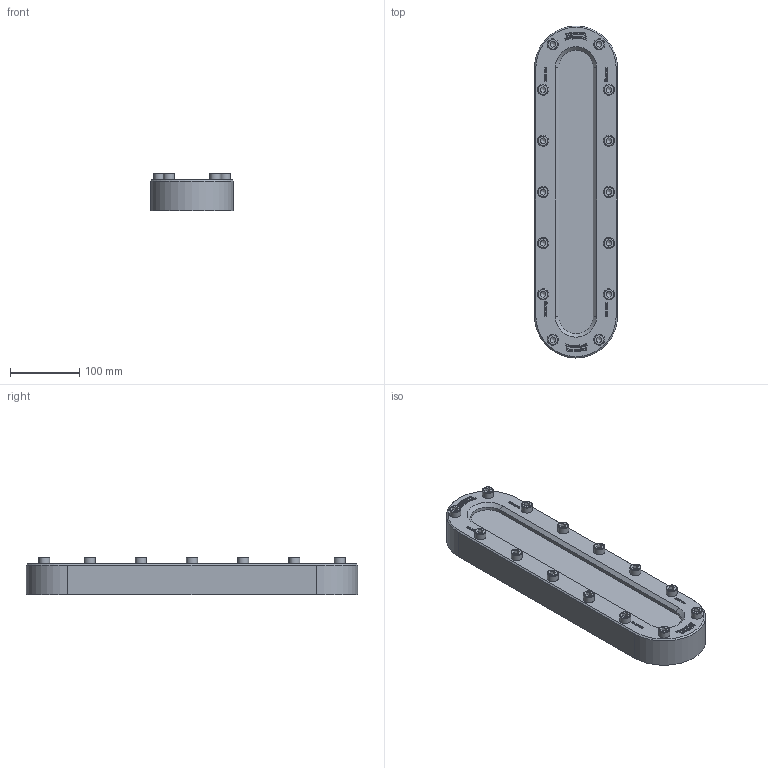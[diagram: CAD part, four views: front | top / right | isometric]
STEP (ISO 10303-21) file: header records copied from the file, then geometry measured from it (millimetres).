
FILE_DESCRIPTION(/* description */ (''),/* implementation_level */ '2;1');
FILE_NAME(/* name */ 'W:\Konstruktion_ACI\335\_Zeichnungen\STEP\ACI-335-480.stp',/* time_stamp */ '2022-03-01T17:51:03+01:00',/* author */ ('koslowksi'),/* organization */ ('ACI Industriearmaturen'),/* preprocessor_version */ 'ST-DEVELOPER v16.1',/* originating_system */ 'Autodesk Inventor 2016',/* authorisation */ '');
FILE_SCHEMA (('AUTOMOTIVE_DESIGN { 1 0 10303 214 3 1 1 }'));
Length unit declared in the file: centimetre
Products named in the file (1): ACI-335-480.stp
Bounding box: 120 x 480 x 54.9 mm (x, y, z)
Volume: 1883537.8 mm3; surface area: 189904.7 mm2
Topology: 1 solids, 1 shells, 1382 faces, 3788 edges, 2518 vertices
Faces by surface type: plane 906, bspline 424, cylinder 20, cone 18, torus 14
Full cylindrical faces by diameter (mm): 16 x14
Entity records: 46310 total; most frequent: CARTESIAN_POINT 13271, ORIENTED_EDGE 7436, DIRECTION 4762, EDGE_CURVE 3718, LINE 2728, VECTOR 2728, VERTEX_POINT 2490, EDGE_LOOP 1534
